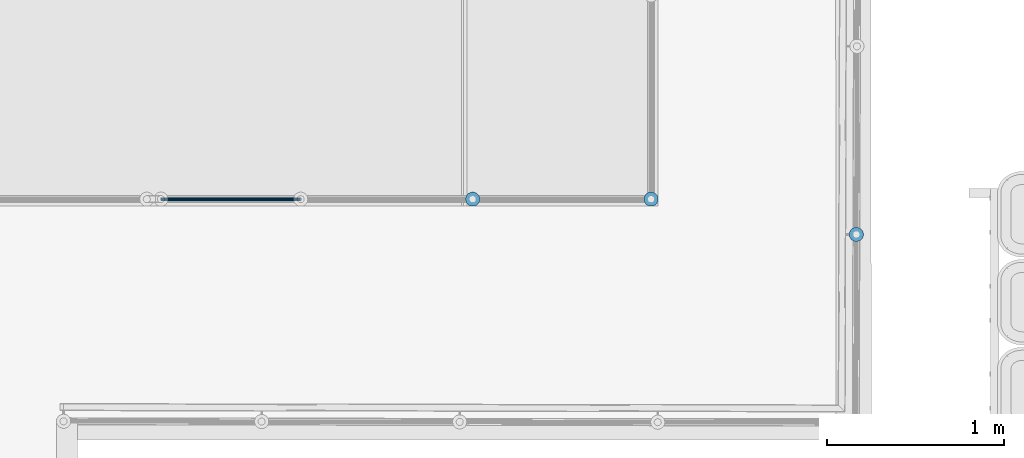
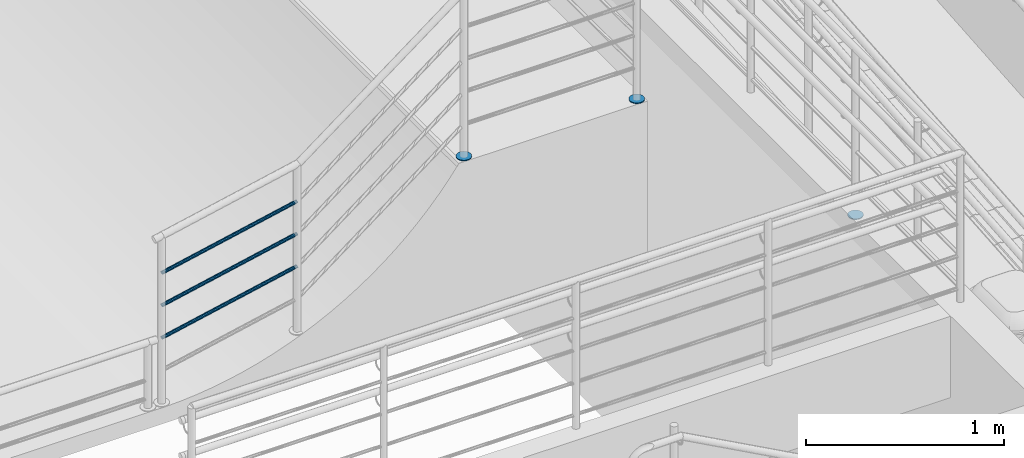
# One storey, part 113 of 237: 6 building element parts, 2 elements without a shape of their own.
"""IFC2X3 building model written with IfcOpenShell, lengths in millimetres."""

from ifc_helpers import new_model, entity, si_unit, converted_unit, derived_unit, money_unit, direction, frame, origin_with_axes, place, context, subcontext, project, spatial, faceted_brep, material, type_object, element, aggregate, save


model = new_model("IFC2X3")

# Units and contexts
model_context = context("Model", 3, precision=0.01, world=origin_with_axes(), true_north=direction((0.0, 1.0)))
body_context = subcontext(model_context, "Body", "Model", "MODEL_VIEW")
ifc_project = project(units=[si_unit("LENGTHUNIT", "METRE", prefix="MILLI"), si_unit("AREAUNIT", "SQUARE_METRE"), si_unit("VOLUMEUNIT", "CUBIC_METRE"), converted_unit("PLANEANGLEUNIT", "DEGREE", entity("IfcPlaneAngleMeasure", 0.0174532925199), si_unit("PLANEANGLEUNIT", "RADIAN"), dimensions=[0, 0, 0, 0, 0, 0, 0]), money_unit("USD"), converted_unit("TIMEUNIT", "Year", entity("IfcTimeMeasure", 31556926.0), si_unit("TIMEUNIT", "SECOND"), dimensions=[0, 0, 1, 0, 0, 0, 0]), si_unit("MASSUNIT", "GRAM", prefix="KILO"), si_unit("THERMODYNAMICTEMPERATUREUNIT", "DEGREE_CELSIUS"), si_unit("LUMINOUSINTENSITYUNIT", "LUMEN"), si_unit("ENERGYUNIT", "JOULE", prefix="MEGA"), derived_unit("THERMALCONDUCTANCEUNIT", [(si_unit("POWERUNIT", "WATT"), 1), (si_unit("LENGTHUNIT", "METRE"), -1), (si_unit("THERMODYNAMICTEMPERATUREUNIT", "KELVIN"), -1)]), derived_unit("SPECIFICHEATCAPACITYUNIT", [(si_unit("ENERGYUNIT", "JOULE"), 1), (si_unit("MASSUNIT", "GRAM", prefix="KILO"), -1), (si_unit("THERMODYNAMICTEMPERATUREUNIT", "KELVIN"), -1)]), derived_unit("MASSDENSITYUNIT", [(si_unit("MASSUNIT", "GRAM", prefix="KILO"), 1), (si_unit("VOLUMEUNIT", "CUBIC_METRE"), -1)])], contexts=[model_context])

# Site, building, storey
site_placement = place(None, origin_with_axes())
site = spatial("IfcSite", under=ifc_project, at=site_placement, Name="Local", CompositionType="ELEMENT")
building_placement = place(site_placement, origin_with_axes())
building = spatial("IfcBuilding", under=site, at=building_placement, Name="Construção", CompositionType="ELEMENT")
storey_placement = place(building_placement, origin_with_axes())
storey = spatial("IfcBuildingStorey", under=building, at=storey_placement, Name="Pavimento Térreo", CompositionType="ELEMENT", Elevation=0.0)

# Railing, building element part
railing_type = type_object("IfcRailingType", Name="Tipo de Guarda-Corpo", PredefinedType="NOTDEFINED")
railing_1_placement = place(storey_placement, frame((70326.6870103, 28675.2458388, -1357.10819655), z_axis=(0.0, 0.0, 1.0), x_axis=(1.0, 0.0, 0.0)))
railing_1 = element("IfcRailing", 1, at=railing_1_placement, inside=storey, type_object=railing_type, Name="Guarda-Corpo - 004", PredefinedType="NOTDEFINED")
ifc_material_1 = material(Name="Alumínio")
building_element_part_1_placement = place(railing_1_placement, origin_with_axes())
building_element_part_1 = element("IfcBuildingElementPart", 2, at=building_element_part_1_placement, material=ifc_material_1, Name="Alumínio", context=body_context, shape_type="Brep", body=[
    faceted_brep([(-4744.04015714, -749.599732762, 0.0), (-4750.98787265, -750.186622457, 0.0), (-4750.98787265, -750.186622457, 5.0), (-4744.04015714, -749.599732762, 5.0), (-4737.09608071, -750.228217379, 0.0), (-4730.36663561, -752.05298012, 0.0), (-4724.05629263, -755.018576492, 0.0), (-4718.35678835, -759.03489835, 0.0), (-4713.44129931, -763.979911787, 0.0), (-4709.45918017, -769.703365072, 0.0), (-4706.5314256, -776.031353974, 0.0), (-4704.74699394, -782.771605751, 0.0), (-4704.16010425, -789.719321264, 0.0), (-4704.78858886, -796.663397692, 0.0), (-4706.6133516, -803.392842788, 0.0), (-4709.57894797, -809.703185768, 0.0), (-4713.59526983, -815.402690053, 0.0), (-4718.54028327, -820.318179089, 0.0), (-4724.26373656, -824.30029823, 0.0), (-4730.59172546, -827.2280528, 0.0), (-4737.33197723, -829.012484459, 0.0), (-4744.27969275, -829.599374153, 0.0), (-4751.22376918, -828.970889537, 0.0), (-4757.95321427, -827.146126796, 0.0), (-4764.26355725, -824.180530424, 0.0), (-4769.96306154, -820.164208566, 0.0), (-4774.87855057, -815.219195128, 0.0), (-4778.86066971, -809.495741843, 0.0), (-4781.78842428, -803.167752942, 0.0), (-4783.57285594, -796.427501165, 0.0), (-4784.15974564, -789.479785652, 0.0), (-4783.53126102, -782.535709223, 0.0), (-4781.70649828, -775.806264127, 0.0), (-4778.74090191, -769.495921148, 0.0), (-4774.72458005, -763.796416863, 0.0), (-4769.77956661, -758.880927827, 0.0), (-4764.05611333, -754.898808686, 0.0), (-4757.72812443, -751.971054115, 0.0), (-4757.72812443, -751.971054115, 5.0), (-4764.05611333, -754.898808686, 5.0), (-4769.77956661, -758.880927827, 5.0), (-4774.72458005, -763.796416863, 5.0), (-4778.74090191, -769.495921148, 5.0), (-4781.70649828, -775.806264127, 5.0), (-4783.53126102, -782.535709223, 5.0), (-4784.15974564, -789.479785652, 5.0), (-4783.57285594, -796.427501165, 5.0), (-4781.78842428, -803.167752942, 5.0), (-4778.86066971, -809.495741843, 5.0), (-4774.87855057, -815.219195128, 5.0), (-4769.96306154, -820.164208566, 5.0), (-4764.26355725, -824.180530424, 5.0), (-4757.95321427, -827.146126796, 5.0), (-4751.22376918, -828.970889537, 5.0), (-4744.27969275, -829.599374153, 5.0), (-4737.33197723, -829.012484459, 5.0), (-4730.59172546, -827.2280528, 5.0), (-4724.26373656, -824.30029823, 5.0), (-4718.54028327, -820.318179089, 5.0), (-4713.59526983, -815.402690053, 5.0), (-4709.57894797, -809.703185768, 5.0), (-4706.6133516, -803.392842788, 5.0), (-4704.78858886, -796.663397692, 5.0), (-4704.16010425, -789.719321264, 5.0), (-4704.74699394, -782.771605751, 5.0), (-4706.5314256, -776.031353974, 5.0), (-4709.45918017, -769.703365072, 5.0), (-4713.44129931, -763.979911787, 5.0), (-4718.35678835, -759.03489835, 5.0), (-4724.05629263, -755.018576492, 5.0), (-4730.36663561, -752.05298012, 5.0), (-4737.09608071, -750.228217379, 5.0)], [[[0, 1, 2, 3]], [[0, 4, 5, 6, 7, 8, 9, 10, 11, 12, 13, 14, 15, 16, 17, 18, 19, 20, 21, 22, 23, 24, 25, 26, 27, 28, 29, 30, 31, 32, 33, 34, 35, 36, 37, 1]], [[1, 37, 38, 2]], [[3, 2, 38, 39, 40, 41, 42, 43, 44, 45, 46, 47, 48, 49, 50, 51, 52, 53, 54, 55, 56, 57, 58, 59, 60, 61, 62, 63, 64, 65, 66, 67, 68, 69, 70, 71]], [[4, 0, 3, 71]], [[5, 4, 71, 70]], [[6, 5, 70, 69]], [[7, 6, 69, 68]], [[8, 7, 68, 67]], [[9, 8, 67, 66]], [[10, 9, 66, 65]], [[11, 10, 65, 64]], [[12, 11, 64, 63]], [[13, 12, 63, 62]], [[14, 13, 62, 61]], [[15, 14, 61, 60]], [[16, 15, 60, 59]], [[17, 16, 59, 58]], [[18, 17, 58, 57]], [[19, 18, 57, 56]], [[20, 19, 56, 55]], [[21, 20, 55, 54]], [[22, 21, 54, 53]], [[23, 22, 53, 52]], [[24, 23, 52, 51]], [[25, 24, 51, 50]], [[26, 25, 50, 49]], [[27, 26, 49, 48]], [[28, 27, 48, 47]], [[29, 28, 47, 46]], [[30, 29, 46, 45]], [[31, 30, 45, 44]], [[32, 31, 44, 43]], [[33, 32, 43, 42]], [[34, 33, 42, 41]], [[35, 34, 41, 40]], [[36, 35, 40, 39]], [[37, 36, 39, 38]]]),
])
aggregate(railing_1, [building_element_part_1])

# Railing, building element parts
railing_2_placement = place(storey_placement, frame((61612.4440926, 28006.4497128, -1265.99547451), z_axis=(0.0, 0.0, 1.0), x_axis=(-1.0, 0.0, 0.0)))
railing_2 = element("IfcRailing", 3, at=railing_2_placement, inside=storey, type_object=railing_type, Name="Guarda-Corpo - 001", PredefinedType="NOTDEFINED")
building_element_part_2_placement = place(railing_2_placement, origin_with_axes())
building_element_part_2 = element("IfcBuildingElementPart", 4, at=building_element_part_2_placement, material=ifc_material_1, Name="Alumínio", context=body_context, shape_type="Brep", body=[
    faceted_brep([(-1841.77109729, -78.4865411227, 908.887277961), (-1841.16340741, -85.4324682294, 908.887277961), (-1841.16340741, -85.4324682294, 913.887277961), (-1841.77109729, -78.4865411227, 913.887277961), (-1841.16340741, -71.540614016, 908.887277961), (-1839.35880212, -64.8057353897, 908.887277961), (-1836.41211344, -58.4865411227, 908.887277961), (-1832.41287502, -52.7750367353, 908.887277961), (-1827.48260168, -47.844763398, 908.887277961), (-1821.77109729, -43.8455249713, 908.887277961), (-1815.45190302, -40.8988362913, 908.887277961), (-1808.7170244, -39.0942310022, 908.887277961), (-1801.77109729, -38.4865411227, 908.887277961), (-1794.82517018, -39.0942310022, 908.887277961), (-1788.09029156, -40.8988362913, 908.887277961), (-1781.77109729, -43.8455249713, 908.887277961), (-1776.0595929, -47.844763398, 908.887277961), (-1771.12931957, -52.7750367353, 908.887277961), (-1767.13008114, -58.4865411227, 908.887277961), (-1764.18339246, -64.8057353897, 908.887277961), (-1762.37878717, -71.540614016, 908.887277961), (-1761.77109729, -78.4865411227, 908.887277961), (-1762.37878717, -85.4324682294, 908.887277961), (-1764.18339246, -92.1673468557, 908.887277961), (-1767.13008114, -98.4865411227, 908.887277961), (-1771.12931957, -104.19804551, 908.887277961), (-1776.0595929, -109.128318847, 908.887277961), (-1781.77109729, -113.127557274, 908.887277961), (-1788.09029156, -116.074245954, 908.887277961), (-1794.82517018, -117.878851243, 908.887277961), (-1801.77109729, -118.486541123, 908.887277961), (-1808.7170244, -117.878851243, 908.887277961), (-1815.45190302, -116.074245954, 908.887277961), (-1821.77109729, -113.127557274, 908.887277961), (-1827.48260168, -109.128318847, 908.887277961), (-1832.41287502, -104.19804551, 908.887277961), (-1836.41211344, -98.4865411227, 908.887277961), (-1839.35880212, -92.1673468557, 908.887277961), (-1839.35880212, -92.1673468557, 913.887277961), (-1836.41211344, -98.4865411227, 913.887277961), (-1832.41287502, -104.19804551, 913.887277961), (-1827.48260168, -109.128318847, 913.887277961), (-1821.77109729, -113.127557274, 913.887277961), (-1815.45190302, -116.074245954, 913.887277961), (-1808.7170244, -117.878851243, 913.887277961), (-1801.77109729, -118.486541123, 913.887277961), (-1794.82517018, -117.878851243, 913.887277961), (-1788.09029156, -116.074245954, 913.887277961), (-1781.77109729, -113.127557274, 913.887277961), (-1776.0595929, -109.128318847, 913.887277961), (-1771.12931957, -104.19804551, 913.887277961), (-1767.13008114, -98.4865411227, 913.887277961), (-1764.18339246, -92.1673468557, 913.887277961), (-1762.37878717, -85.4324682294, 913.887277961), (-1761.77109729, -78.4865411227, 913.887277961), (-1762.37878717, -71.540614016, 913.887277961), (-1764.18339246, -64.8057353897, 913.887277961), (-1767.13008114, -58.4865411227, 913.887277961), (-1771.12931957, -52.7750367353, 913.887277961), (-1776.0595929, -47.844763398, 913.887277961), (-1781.77109729, -43.8455249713, 913.887277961), (-1788.09029156, -40.8988362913, 913.887277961), (-1794.82517018, -39.0942310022, 913.887277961), (-1801.77109729, -38.4865411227, 913.887277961), (-1808.7170244, -39.0942310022, 913.887277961), (-1815.45190302, -40.8988362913, 913.887277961), (-1821.77109729, -43.8455249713, 913.887277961), (-1827.48260168, -47.844763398, 913.887277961), (-1832.41287502, -52.7750367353, 913.887277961), (-1836.41211344, -58.4865411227, 913.887277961), (-1839.35880212, -64.8057353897, 913.887277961), (-1841.16340741, -71.540614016, 913.887277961)], [[[0, 1, 2, 3]], [[0, 4, 5, 6, 7, 8, 9, 10, 11, 12, 13, 14, 15, 16, 17, 18, 19, 20, 21, 22, 23, 24, 25, 26, 27, 28, 29, 30, 31, 32, 33, 34, 35, 36, 37, 1]], [[1, 37, 38, 2]], [[3, 2, 38, 39, 40, 41, 42, 43, 44, 45, 46, 47, 48, 49, 50, 51, 52, 53, 54, 55, 56, 57, 58, 59, 60, 61, 62, 63, 64, 65, 66, 67, 68, 69, 70, 71]], [[4, 0, 3, 71]], [[5, 4, 71, 70]], [[6, 5, 70, 69]], [[7, 6, 69, 68]], [[8, 7, 68, 67]], [[9, 8, 67, 66]], [[10, 9, 66, 65]], [[11, 10, 65, 64]], [[12, 11, 64, 63]], [[13, 12, 63, 62]], [[14, 13, 62, 61]], [[15, 14, 61, 60]], [[16, 15, 60, 59]], [[17, 16, 59, 58]], [[18, 17, 58, 57]], [[19, 18, 57, 56]], [[20, 19, 56, 55]], [[21, 20, 55, 54]], [[22, 21, 54, 53]], [[23, 22, 53, 52]], [[24, 23, 52, 51]], [[25, 24, 51, 50]], [[26, 25, 50, 49]], [[27, 26, 49, 48]], [[28, 27, 48, 47]], [[29, 28, 47, 46]], [[30, 29, 46, 45]], [[31, 30, 45, 44]], [[32, 31, 44, 43]], [[33, 32, 43, 42]], [[34, 33, 42, 41]], [[35, 34, 41, 40]], [[36, 35, 40, 39]], [[37, 36, 39, 38]]]),
])
building_element_part_3_placement = place(railing_2_placement, origin_with_axes())
building_element_part_3 = element("IfcBuildingElementPart", 5, at=building_element_part_3_placement, material=ifc_material_1, Name="Alumínio", context=body_context, shape_type="Brep", body=[
    faceted_brep([(-2850.00019121, -78.4865411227, 908.887277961), (-2849.39250133, -85.4324682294, 908.887277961), (-2849.39250133, -85.4324682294, 913.887277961), (-2850.00019121, -78.4865411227, 913.887277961), (-2849.39250133, -71.540614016, 908.887277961), (-2847.58789605, -64.8057353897, 908.887277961), (-2844.64120737, -58.4865411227, 908.887277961), (-2840.64196894, -52.7750367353, 908.887277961), (-2835.7116956, -47.844763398, 908.887277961), (-2830.00019121, -43.8455249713, 908.887277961), (-2823.68099695, -40.8988362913, 908.887277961), (-2816.94611832, -39.0942310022, 908.887277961), (-2810.00019121, -38.4865411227, 908.887277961), (-2803.05426411, -39.0942310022, 908.887277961), (-2796.31938548, -40.8988362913, 908.887277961), (-2790.00019121, -43.8455249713, 908.887277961), (-2784.28868683, -47.844763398, 908.887277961), (-2779.35841349, -52.7750367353, 908.887277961), (-2775.35917506, -58.4865411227, 908.887277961), (-2772.41248638, -64.8057353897, 908.887277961), (-2770.60788109, -71.540614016, 908.887277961), (-2770.00019121, -78.4865411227, 908.887277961), (-2770.60788109, -85.4324682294, 908.887277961), (-2772.41248638, -92.1673468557, 908.887277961), (-2775.35917506, -98.4865411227, 908.887277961), (-2779.35841349, -104.19804551, 908.887277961), (-2784.28868683, -109.128318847, 908.887277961), (-2790.00019121, -113.127557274, 908.887277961), (-2796.31938548, -116.074245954, 908.887277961), (-2803.05426411, -117.878851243, 908.887277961), (-2810.00019121, -118.486541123, 908.887277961), (-2816.94611832, -117.878851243, 908.887277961), (-2823.68099695, -116.074245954, 908.887277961), (-2830.00019121, -113.127557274, 908.887277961), (-2835.7116956, -109.128318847, 908.887277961), (-2840.64196894, -104.19804551, 908.887277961), (-2844.64120737, -98.4865411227, 908.887277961), (-2847.58789605, -92.1673468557, 908.887277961), (-2847.58789605, -92.1673468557, 913.887277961), (-2844.64120737, -98.4865411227, 913.887277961), (-2840.64196894, -104.19804551, 913.887277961), (-2835.7116956, -109.128318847, 913.887277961), (-2830.00019121, -113.127557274, 913.887277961), (-2823.68099695, -116.074245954, 913.887277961), (-2816.94611832, -117.878851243, 913.887277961), (-2810.00019121, -118.486541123, 913.887277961), (-2803.05426411, -117.878851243, 913.887277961), (-2796.31938548, -116.074245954, 913.887277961), (-2790.00019121, -113.127557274, 913.887277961), (-2784.28868683, -109.128318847, 913.887277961), (-2779.35841349, -104.19804551, 913.887277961), (-2775.35917506, -98.4865411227, 913.887277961), (-2772.41248638, -92.1673468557, 913.887277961), (-2770.60788109, -85.4324682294, 913.887277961), (-2770.00019121, -78.4865411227, 913.887277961), (-2770.60788109, -71.540614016, 913.887277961), (-2772.41248638, -64.8057353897, 913.887277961), (-2775.35917506, -58.4865411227, 913.887277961), (-2779.35841349, -52.7750367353, 913.887277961), (-2784.28868683, -47.844763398, 913.887277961), (-2790.00019121, -43.8455249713, 913.887277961), (-2796.31938548, -40.8988362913, 913.887277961), (-2803.05426411, -39.0942310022, 913.887277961), (-2810.00019121, -38.4865411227, 913.887277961), (-2816.94611832, -39.0942310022, 913.887277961), (-2823.68099695, -40.8988362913, 913.887277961), (-2830.00019121, -43.8455249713, 913.887277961), (-2835.7116956, -47.844763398, 913.887277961), (-2840.64196894, -52.7750367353, 913.887277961), (-2844.64120737, -58.4865411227, 913.887277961), (-2847.58789605, -64.8057353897, 913.887277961), (-2849.39250133, -71.540614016, 913.887277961)], [[[0, 1, 2, 3]], [[0, 4, 5, 6, 7, 8, 9, 10, 11, 12, 13, 14, 15, 16, 17, 18, 19, 20, 21, 22, 23, 24, 25, 26, 27, 28, 29, 30, 31, 32, 33, 34, 35, 36, 37, 1]], [[1, 37, 38, 2]], [[3, 2, 38, 39, 40, 41, 42, 43, 44, 45, 46, 47, 48, 49, 50, 51, 52, 53, 54, 55, 56, 57, 58, 59, 60, 61, 62, 63, 64, 65, 66, 67, 68, 69, 70, 71]], [[4, 0, 3, 71]], [[5, 4, 71, 70]], [[6, 5, 70, 69]], [[7, 6, 69, 68]], [[8, 7, 68, 67]], [[9, 8, 67, 66]], [[10, 9, 66, 65]], [[11, 10, 65, 64]], [[12, 11, 64, 63]], [[13, 12, 63, 62]], [[14, 13, 62, 61]], [[15, 14, 61, 60]], [[16, 15, 60, 59]], [[17, 16, 59, 58]], [[18, 17, 58, 57]], [[19, 18, 57, 56]], [[20, 19, 56, 55]], [[21, 20, 55, 54]], [[22, 21, 54, 53]], [[23, 22, 53, 52]], [[24, 23, 52, 51]], [[25, 24, 51, 50]], [[26, 25, 50, 49]], [[27, 26, 49, 48]], [[28, 27, 48, 47]], [[29, 28, 47, 46]], [[30, 29, 46, 45]], [[31, 30, 45, 44]], [[32, 31, 44, 43]], [[33, 32, 43, 42]], [[34, 33, 42, 41]], [[35, 34, 41, 40]], [[36, 35, 40, 39]], [[37, 36, 39, 38]]]),
])
ifc_material_2 = material(Name="Aço - Inoxidável")
building_element_part_4_placement = place(railing_2_placement, origin_with_axes())
building_element_part_4 = element("IfcBuildingElementPart", 6, at=building_element_part_4_placement, material=ifc_material_2, Name="Aço - Inoxidável", context=body_context, shape_type="Brep", body=[
    faceted_brep([(-40.0, -88.4865411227, 408.441219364), (-39.6414463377, -88.3346186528, 410.140280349), (-829.137808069, -88.3346186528, 576.748079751), (-829.875144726, -88.4865411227, 575.128953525), (-40.3585536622, -88.3346186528, 406.742158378), (-40.7062128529, -87.8834673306, 405.094722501), (-41.0324141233, -87.1467951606, 403.548968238), (-41.3272460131, -86.1469855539, 402.151862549), (-41.5817502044, -84.9144172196, 400.945855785), (-41.7881937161, -83.4865411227, 399.96759185), (-41.9403038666, -81.906742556, 399.2467948), (-42.033458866, -80.2230228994, 398.805365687), (-42.0648282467, -78.4865411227, 398.656717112), (-42.033458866, -76.7500593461, 398.805365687), (-41.9403038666, -75.0663396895, 399.2467948), (-41.7881937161, -73.4865411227, 399.96759185), (-41.5817502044, -72.0586650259, 400.945855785), (-41.3272460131, -70.8260966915, 402.151862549), (-41.0324141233, -69.8262870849, 403.548968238), (-40.7062128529, -69.0896149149, 405.094722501), (-40.3585536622, -68.6384635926, 406.742158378), (-40.0, -68.4865411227, 408.441219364), (-39.6414463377, -68.6384635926, 410.140280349), (-39.2937871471, -69.0896149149, 411.787716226), (-38.9675858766, -69.8262870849, 413.333470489), (-38.6727539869, -70.8260966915, 414.730576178), (-38.4182497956, -72.0586650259, 415.936582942), (-38.2118062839, -73.4865411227, 416.914846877), (-38.0596961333, -75.0663396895, 417.635643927), (-37.966541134, -76.7500593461, 418.07707304), (-37.9351717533, -78.4865411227, 418.225721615), (-37.966541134, -80.2230228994, 418.07707304), (-38.0596961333, -81.906742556, 417.635643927), (-38.2118062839, -83.4865411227, 416.914846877), (-38.4182497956, -84.9144172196, 415.936582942), (-38.6727539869, -86.1469855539, 414.730576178), (-38.9675858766, -87.1467951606, 413.333470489), (-39.2937871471, -87.8834673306, 411.787716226), (-828.422875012, -87.8834673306, 578.318009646), (-827.752068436, -87.1467951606, 579.791041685), (-827.145770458, -86.1469855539, 581.122418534), (-826.622403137, -84.9144172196, 582.271686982), (-826.197868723, -83.4865411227, 583.203927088), (-825.885066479, -81.906742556, 583.890813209), (-825.693500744, -80.2230228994, 584.311474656), (-825.628992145, -78.4865411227, 584.453129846), (-825.693500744, -76.7500593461, 584.311474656), (-825.885066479, -75.0663396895, 583.890813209), (-826.197868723, -73.4865411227, 583.203927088), (-826.622403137, -72.0586650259, 582.271686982), (-827.145770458, -70.8260966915, 581.122418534), (-827.752068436, -69.8262870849, 579.791041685), (-828.422875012, -69.0896149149, 578.318009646), (-829.137808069, -68.6384635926, 576.748079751), (-829.875144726, -68.4865411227, 575.128953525), (-830.612481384, -68.6384635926, 573.509827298), (-831.327414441, -69.0896149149, 571.939897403), (-831.998221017, -69.8262870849, 570.466865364), (-832.604518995, -70.8260966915, 569.135488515), (-833.127886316, -72.0586650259, 567.986220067), (-833.55242073, -73.4865411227, 567.053979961), (-833.865222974, -75.0663396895, 566.367093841), (-834.056788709, -76.7500593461, 565.946432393), (-834.121297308, -78.4865411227, 565.804777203), (-834.056788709, -80.2230228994, 565.946432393), (-833.865222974, -81.906742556, 566.367093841), (-833.55242073, -83.4865411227, 567.053979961), (-833.127886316, -84.9144172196, 567.986220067), (-832.604518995, -86.1469855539, 569.135488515), (-831.998221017, -87.1467951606, 570.466865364), (-831.327414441, -87.8834673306, 571.939897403), (-830.612481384, -88.3346186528, 573.509827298)], [[[0, 1, 2, 3]], [[0, 4, 5, 6, 7, 8, 9, 10, 11, 12, 13, 14, 15, 16, 17, 18, 19, 20, 21, 22, 23, 24, 25, 26, 27, 28, 29, 30, 31, 32, 33, 34, 35, 36, 37, 1]], [[1, 37, 38, 2]], [[3, 2, 38, 39, 40, 41, 42, 43, 44, 45, 46, 47, 48, 49, 50, 51, 52, 53, 54, 55, 56, 57, 58, 59, 60, 61, 62, 63, 64, 65, 66, 67, 68, 69, 70, 71]], [[4, 0, 3, 71]], [[5, 4, 71, 70]], [[6, 5, 70, 69]], [[7, 6, 69, 68]], [[8, 7, 68, 67]], [[9, 8, 67, 66]], [[10, 9, 66, 65]], [[11, 10, 65, 64]], [[12, 11, 64, 63]], [[13, 12, 63, 62]], [[14, 13, 62, 61]], [[15, 14, 61, 60]], [[16, 15, 60, 59]], [[17, 16, 59, 58]], [[18, 17, 58, 57]], [[19, 18, 57, 56]], [[20, 19, 56, 55]], [[21, 20, 55, 54]], [[22, 21, 54, 53]], [[23, 22, 53, 52]], [[24, 23, 52, 51]], [[25, 24, 51, 50]], [[26, 25, 50, 49]], [[27, 26, 49, 48]], [[28, 27, 48, 47]], [[29, 28, 47, 46]], [[30, 29, 46, 45]], [[31, 30, 45, 44]], [[32, 31, 44, 43]], [[33, 32, 43, 42]], [[34, 33, 42, 41]], [[35, 34, 41, 40]], [[36, 35, 40, 39]], [[37, 36, 39, 38]]]),
])
building_element_part_5_placement = place(railing_2_placement, origin_with_axes())
building_element_part_5 = element("IfcBuildingElementPart", 7, at=building_element_part_5_placement, material=ifc_material_2, Name="Aço - Inoxidável", context=body_context, shape_type="Brep", body=[
    faceted_brep([(-40.0, -88.4865411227, 608.441219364), (-39.6414463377, -88.3346186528, 610.140280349), (-829.137808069, -88.3346186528, 776.748079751), (-829.875144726, -88.4865411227, 775.128953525), (-40.3585536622, -88.3346186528, 606.742158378), (-40.7062128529, -87.8834673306, 605.094722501), (-41.0324141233, -87.1467951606, 603.548968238), (-41.3272460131, -86.1469855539, 602.151862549), (-41.5817502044, -84.9144172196, 600.945855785), (-41.7881937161, -83.4865411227, 599.96759185), (-41.9403038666, -81.906742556, 599.2467948), (-42.033458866, -80.2230228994, 598.805365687), (-42.0648282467, -78.4865411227, 598.656717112), (-42.033458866, -76.7500593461, 598.805365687), (-41.9403038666, -75.0663396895, 599.2467948), (-41.7881937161, -73.4865411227, 599.96759185), (-41.5817502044, -72.0586650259, 600.945855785), (-41.3272460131, -70.8260966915, 602.151862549), (-41.0324141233, -69.8262870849, 603.548968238), (-40.7062128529, -69.0896149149, 605.094722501), (-40.3585536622, -68.6384635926, 606.742158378), (-40.0, -68.4865411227, 608.441219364), (-39.6414463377, -68.6384635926, 610.140280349), (-39.2937871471, -69.0896149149, 611.787716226), (-38.9675858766, -69.8262870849, 613.333470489), (-38.6727539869, -70.8260966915, 614.730576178), (-38.4182497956, -72.0586650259, 615.936582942), (-38.2118062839, -73.4865411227, 616.914846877), (-38.0596961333, -75.0663396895, 617.635643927), (-37.966541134, -76.7500593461, 618.07707304), (-37.9351717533, -78.4865411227, 618.225721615), (-37.966541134, -80.2230228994, 618.07707304), (-38.0596961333, -81.906742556, 617.635643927), (-38.2118062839, -83.4865411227, 616.914846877), (-38.4182497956, -84.9144172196, 615.936582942), (-38.6727539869, -86.1469855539, 614.730576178), (-38.9675858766, -87.1467951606, 613.333470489), (-39.2937871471, -87.8834673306, 611.787716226), (-828.422875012, -87.8834673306, 778.318009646), (-827.752068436, -87.1467951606, 779.791041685), (-827.145770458, -86.1469855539, 781.122418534), (-826.622403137, -84.9144172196, 782.271686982), (-826.197868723, -83.4865411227, 783.203927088), (-825.885066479, -81.906742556, 783.890813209), (-825.693500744, -80.2230228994, 784.311474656), (-825.628992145, -78.4865411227, 784.453129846), (-825.693500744, -76.7500593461, 784.311474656), (-825.885066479, -75.0663396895, 783.890813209), (-826.197868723, -73.4865411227, 783.203927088), (-826.622403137, -72.0586650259, 782.271686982), (-827.145770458, -70.8260966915, 781.122418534), (-827.752068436, -69.8262870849, 779.791041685), (-828.422875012, -69.0896149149, 778.318009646), (-829.137808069, -68.6384635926, 776.748079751), (-829.875144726, -68.4865411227, 775.128953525), (-830.612481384, -68.6384635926, 773.509827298), (-831.327414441, -69.0896149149, 771.939897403), (-831.998221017, -69.8262870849, 770.466865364), (-832.604518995, -70.8260966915, 769.135488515), (-833.127886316, -72.0586650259, 767.986220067), (-833.55242073, -73.4865411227, 767.053979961), (-833.865222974, -75.0663396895, 766.367093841), (-834.056788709, -76.7500593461, 765.946432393), (-834.121297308, -78.4865411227, 765.804777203), (-834.056788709, -80.2230228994, 765.946432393), (-833.865222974, -81.906742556, 766.367093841), (-833.55242073, -83.4865411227, 767.053979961), (-833.127886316, -84.9144172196, 767.986220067), (-832.604518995, -86.1469855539, 769.135488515), (-831.998221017, -87.1467951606, 770.466865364), (-831.327414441, -87.8834673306, 771.939897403), (-830.612481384, -88.3346186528, 773.509827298)], [[[0, 1, 2, 3]], [[0, 4, 5, 6, 7, 8, 9, 10, 11, 12, 13, 14, 15, 16, 17, 18, 19, 20, 21, 22, 23, 24, 25, 26, 27, 28, 29, 30, 31, 32, 33, 34, 35, 36, 37, 1]], [[1, 37, 38, 2]], [[3, 2, 38, 39, 40, 41, 42, 43, 44, 45, 46, 47, 48, 49, 50, 51, 52, 53, 54, 55, 56, 57, 58, 59, 60, 61, 62, 63, 64, 65, 66, 67, 68, 69, 70, 71]], [[4, 0, 3, 71]], [[5, 4, 71, 70]], [[6, 5, 70, 69]], [[7, 6, 69, 68]], [[8, 7, 68, 67]], [[9, 8, 67, 66]], [[10, 9, 66, 65]], [[11, 10, 65, 64]], [[12, 11, 64, 63]], [[13, 12, 63, 62]], [[14, 13, 62, 61]], [[15, 14, 61, 60]], [[16, 15, 60, 59]], [[17, 16, 59, 58]], [[18, 17, 58, 57]], [[19, 18, 57, 56]], [[20, 19, 56, 55]], [[21, 20, 55, 54]], [[22, 21, 54, 53]], [[23, 22, 53, 52]], [[24, 23, 52, 51]], [[25, 24, 51, 50]], [[26, 25, 50, 49]], [[27, 26, 49, 48]], [[28, 27, 48, 47]], [[29, 28, 47, 46]], [[30, 29, 46, 45]], [[31, 30, 45, 44]], [[32, 31, 44, 43]], [[33, 32, 43, 42]], [[34, 33, 42, 41]], [[35, 34, 41, 40]], [[36, 35, 40, 39]], [[37, 36, 39, 38]]]),
])
building_element_part_6_placement = place(railing_2_placement, origin_with_axes())
building_element_part_6 = element("IfcBuildingElementPart", 8, at=building_element_part_6_placement, material=ifc_material_2, Name="Aço - Inoxidável", context=body_context, shape_type="Brep", body=[
    faceted_brep([(-40.0, -88.4865411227, 808.441219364), (-39.6414463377, -88.3346186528, 810.140280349), (-829.137808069, -88.3346186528, 976.748079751), (-829.875144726, -88.4865411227, 975.128953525), (-40.3585536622, -88.3346186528, 806.742158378), (-40.7062128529, -87.8834673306, 805.094722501), (-41.0324141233, -87.1467951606, 803.548968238), (-41.3272460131, -86.1469855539, 802.151862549), (-41.5817502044, -84.9144172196, 800.945855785), (-41.7881937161, -83.4865411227, 799.96759185), (-41.9403038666, -81.906742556, 799.2467948), (-42.033458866, -80.2230228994, 798.805365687), (-42.0648282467, -78.4865411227, 798.656717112), (-42.033458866, -76.7500593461, 798.805365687), (-41.9403038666, -75.0663396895, 799.2467948), (-41.7881937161, -73.4865411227, 799.96759185), (-41.5817502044, -72.0586650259, 800.945855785), (-41.3272460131, -70.8260966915, 802.151862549), (-41.0324141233, -69.8262870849, 803.548968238), (-40.7062128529, -69.0896149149, 805.094722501), (-40.3585536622, -68.6384635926, 806.742158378), (-40.0, -68.4865411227, 808.441219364), (-39.6414463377, -68.6384635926, 810.140280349), (-39.2937871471, -69.0896149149, 811.787716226), (-38.9675858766, -69.8262870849, 813.333470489), (-38.6727539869, -70.8260966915, 814.730576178), (-38.4182497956, -72.0586650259, 815.936582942), (-38.2118062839, -73.4865411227, 816.914846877), (-38.0596961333, -75.0663396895, 817.635643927), (-37.966541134, -76.7500593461, 818.07707304), (-37.9351717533, -78.4865411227, 818.225721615), (-37.966541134, -80.2230228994, 818.07707304), (-38.0596961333, -81.906742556, 817.635643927), (-38.2118062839, -83.4865411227, 816.914846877), (-38.4182497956, -84.9144172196, 815.936582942), (-38.6727539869, -86.1469855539, 814.730576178), (-38.9675858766, -87.1467951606, 813.333470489), (-39.2937871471, -87.8834673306, 811.787716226), (-828.422875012, -87.8834673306, 978.318009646), (-827.752068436, -87.1467951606, 979.791041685), (-827.145770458, -86.1469855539, 981.122418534), (-826.622403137, -84.9144172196, 982.271686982), (-826.197868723, -83.4865411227, 983.203927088), (-825.885066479, -81.906742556, 983.890813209), (-825.693500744, -80.2230228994, 984.311474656), (-825.628992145, -78.4865411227, 984.453129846), (-825.693500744, -76.7500593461, 984.311474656), (-825.885066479, -75.0663396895, 983.890813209), (-826.197868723, -73.4865411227, 983.203927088), (-826.622403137, -72.0586650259, 982.271686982), (-827.145770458, -70.8260966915, 981.122418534), (-827.752068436, -69.8262870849, 979.791041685), (-828.422875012, -69.0896149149, 978.318009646), (-829.137808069, -68.6384635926, 976.748079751), (-829.875144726, -68.4865411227, 975.128953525), (-830.612481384, -68.6384635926, 973.509827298), (-831.327414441, -69.0896149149, 971.939897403), (-831.998221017, -69.8262870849, 970.466865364), (-832.604518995, -70.8260966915, 969.135488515), (-833.127886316, -72.0586650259, 967.986220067), (-833.55242073, -73.4865411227, 967.053979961), (-833.865222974, -75.0663396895, 966.367093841), (-834.056788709, -76.7500593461, 965.946432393), (-834.121297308, -78.4865411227, 965.804777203), (-834.056788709, -80.2230228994, 965.946432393), (-833.865222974, -81.906742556, 966.367093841), (-833.55242073, -83.4865411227, 967.053979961), (-833.127886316, -84.9144172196, 967.986220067), (-832.604518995, -86.1469855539, 969.135488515), (-831.998221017, -87.1467951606, 970.466865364), (-831.327414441, -87.8834673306, 971.939897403), (-830.612481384, -88.3346186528, 973.509827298)], [[[0, 1, 2, 3]], [[0, 4, 5, 6, 7, 8, 9, 10, 11, 12, 13, 14, 15, 16, 17, 18, 19, 20, 21, 22, 23, 24, 25, 26, 27, 28, 29, 30, 31, 32, 33, 34, 35, 36, 37, 1]], [[1, 37, 38, 2]], [[3, 2, 38, 39, 40, 41, 42, 43, 44, 45, 46, 47, 48, 49, 50, 51, 52, 53, 54, 55, 56, 57, 58, 59, 60, 61, 62, 63, 64, 65, 66, 67, 68, 69, 70, 71]], [[4, 0, 3, 71]], [[5, 4, 71, 70]], [[6, 5, 70, 69]], [[7, 6, 69, 68]], [[8, 7, 68, 67]], [[9, 8, 67, 66]], [[10, 9, 66, 65]], [[11, 10, 65, 64]], [[12, 11, 64, 63]], [[13, 12, 63, 62]], [[14, 13, 62, 61]], [[15, 14, 61, 60]], [[16, 15, 60, 59]], [[17, 16, 59, 58]], [[18, 17, 58, 57]], [[19, 18, 57, 56]], [[20, 19, 56, 55]], [[21, 20, 55, 54]], [[22, 21, 54, 53]], [[23, 22, 53, 52]], [[24, 23, 52, 51]], [[25, 24, 51, 50]], [[26, 25, 50, 49]], [[27, 26, 49, 48]], [[28, 27, 48, 47]], [[29, 28, 47, 46]], [[30, 29, 46, 45]], [[31, 30, 45, 44]], [[32, 31, 44, 43]], [[33, 32, 43, 42]], [[34, 33, 42, 41]], [[35, 34, 41, 40]], [[36, 35, 40, 39]], [[37, 36, 39, 38]]]),
])
aggregate(railing_2, [building_element_part_2, building_element_part_3, building_element_part_4, building_element_part_5, building_element_part_6])

save(model, "model.ifc")
